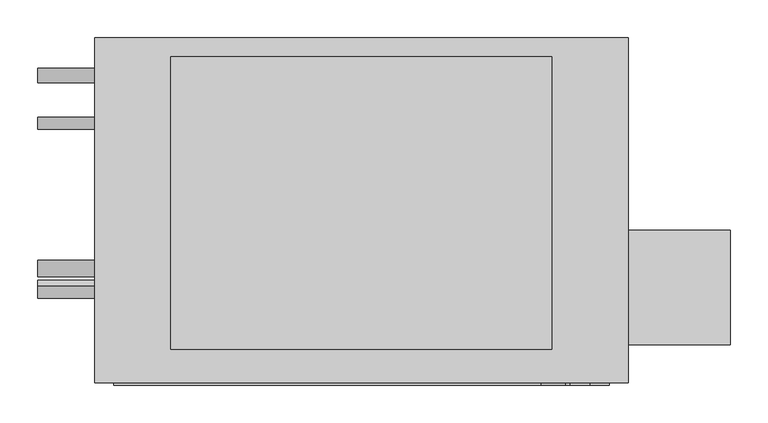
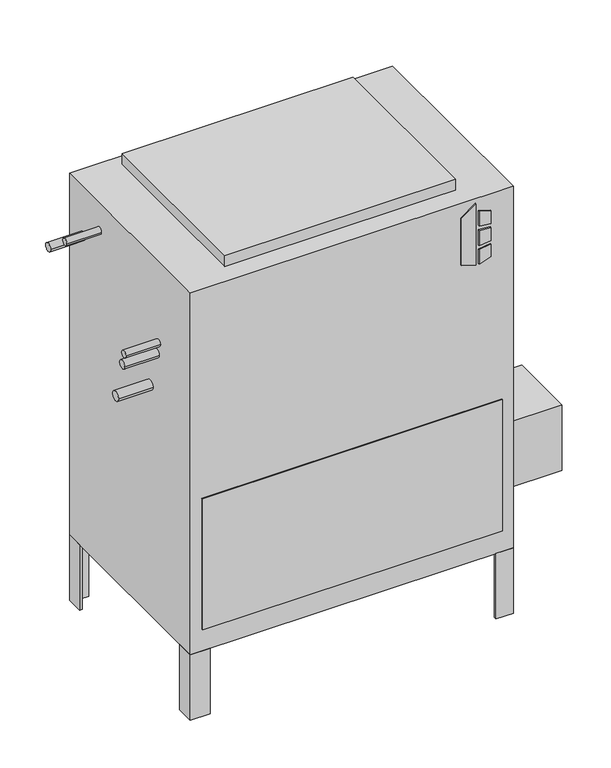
"""IFC4 building model written with IfcOpenShell, lengths in millimetres: proxy geometry, Concealed_High_Capacity_Vertical_Fan_Coil_Unit_-_VEY_-_IEC_-_4-Pipe_LH_2022 : Size 08 - 277v/60Hz/1Ph - 4/2 Coil."""

from ifc_helpers import new_model, si_unit, point, frame, frame_2d, origin, origin_with_axes, place, context, project, spatial, polyline, circle_curve, trimmed, segment, composite_curve, outline, extrude, source, transform, mapped, element, save


def mechanical_equipment_42458b22(model_context):
    return source(origin(), model_context, "Body", "SweptSolid", [
        extrude(outline(polyline([(698.9230703, 392.1868862), (688.975, 424.3602728), (831.1459244, 424.3602728), (808.1239183, 392.1868862), (698.9230703, 392.1868862)])), frame((0.0, -471.4875, 0.0), z_axis=(0.0, 1.0, 0.0), x_axis=(0.0, 0.0, 1.0)), (0.0, 0.0, 1.0), 3.175),
        extrude(outline(polyline([(777.9223557, 431.1186058), (774.7199632, 457.2), (803.9488042, 457.2), (812.0132193, 431.1186058), (777.9223557, 431.1186058)])), frame((0.0, -471.4875, 0.0), z_axis=(0.0, 1.0, 0.0), x_axis=(0.0, 0.0, 1.0)), (0.0, 0.0, 1.0), 3.175),
        extrude(outline(polyline([(726.0588288, 457.2), (722.3933279, 431.1186058), (688.975, 431.1186058), (697.6092372, 457.2), (726.0588288, 457.2)])), frame((0.0, -471.4875, 0.0), z_axis=(0.0, 1.0, 0.0), x_axis=(0.0, 0.0, 1.0)), (0.0, 0.0, 1.0), 3.175),
        extrude(outline(polyline([(765.3739903, 457.2), (767.6558166, 431.1186058), (731.7182681, 431.1186058), (734.4595331, 457.2), (765.3739903, 457.2)])), frame((0.0, -471.4875, 0.0), z_axis=(0.0, 1.0, 0.0), x_axis=(0.0, 0.0, 1.0)), (0.0, 0.0, 1.0), 3.175),
        extrude(outline(polyline([(644.525, -265.1125), (644.525, -417.5125), (508.0, -417.5125), (508.0, -265.1125), (644.525, -265.1125)])), frame((0.0, 0.0, 101.6), z_axis=(0.0, 0.0, 1.0), x_axis=(1.0, 0.0, 0.0)), (0.0, 0.0, 1.0), 152.4),
        extrude(outline(polyline([(508.0, -46.0375), (501.65, -46.0375), (501.65, -14.2875), (469.9, -14.2875), (469.9, -7.9375), (508.0, -7.9375), (508.0, -46.0375)])), frame((0.0, 0.0, -152.4), z_axis=(0.0, 0.0, 1.0), x_axis=(1.0, 0.0, 0.0)), (0.0, 0.0, 1.0), 152.4),
        extrude(outline(polyline([(-165.1, -7.9375), (-165.1, -14.2875), (-196.85, -14.2875), (-196.85, -46.0375), (-203.2, -46.0375), (-203.2, -7.9375), (-165.1, -7.9375)])), frame((0.0, 0.0, -152.4), z_axis=(0.0, 0.0, 1.0), x_axis=(1.0, 0.0, 0.0)), (0.0, 0.0, 1.0), 152.4),
        extrude(outline(polyline([(469.9, -468.3125), (469.9, -461.9625), (501.65, -461.9625), (501.65, -430.2125), (508.0, -430.2125), (508.0, -468.3125), (469.9, -468.3125)])), frame((0.0, 0.0, -152.4), z_axis=(0.0, 0.0, 1.0), x_axis=(1.0, 0.0, 0.0)), (0.0, 0.0, 1.0), 152.4),
        extrude(outline(polyline([(-203.2, -428.1199163), (-196.85, -428.1199163), (-196.85, -461.9625), (-159.7318533, -461.9625), (-159.7318533, -468.3125), (-203.2, -468.3125), (-203.2, -428.1199163)])), frame((0.0, 0.0, -152.4), z_axis=(0.0, 0.0, 1.0), x_axis=(1.0, 0.0, 0.0)), (0.0, 0.0, 1.0), 152.4),
        extrude(outline(polyline([(406.4, -33.3375), (406.4, -423.8625), (-101.6, -423.8625), (-101.6, -33.3375), (406.4, -33.3375)])), frame((0.0, 0.0, 841.375), z_axis=(0.0, 0.0, 1.0), x_axis=(1.0, 0.0, 0.0)), (0.0, 0.0, 1.0), 25.4),
        extrude(outline(polyline([(482.6, -471.4875), (-177.8, -471.4875), (-177.8, -468.3125), (482.6, -468.3125), (482.6, -471.4875)])), frame((0.0, 0.0, 50.8), z_axis=(0.0, 0.0, 1.0), x_axis=(1.0, 0.0, 0.0)), (0.0, 0.0, 1.0), 304.8),
        extrude(outline(composite_curve([segment(trimmed(circle_curve(frame_2d((-122.2375, 777.875)), 7.9375), [point((-130.175, 777.875))], [point((-114.3, 777.875))], False, "CARTESIAN"), True, "CONTINUOUS"), segment(trimmed(circle_curve(frame_2d((-122.2375, 777.875)), 7.9375), [point((-114.3, 777.875))], [point((-130.175, 777.875))], False, "CARTESIAN"), True, "CONTINUOUS")], self_intersect=False)), frame((-279.4, 0.0, 0.0), z_axis=(1.0, 0.0, 0.0), x_axis=(0.0, 1.0, 0.0)), (0.0, 0.0, 1.0), 76.2),
        extrude(outline(composite_curve([segment(trimmed(circle_curve(frame_2d((-347.3848135, 653.2230057)), 7.9375), [point((-355.3223135, 653.2230057))], [point((-339.4473135, 653.2230057))], False, "CARTESIAN"), True, "CONTINUOUS"), segment(trimmed(circle_curve(frame_2d((-347.3848135, 653.2230057)), 7.9375), [point((-339.4473135, 653.2230057))], [point((-355.3223135, 653.2230057))], False, "CARTESIAN"), True, "CONTINUOUS")], self_intersect=False)), frame((-279.4, 0.0, 0.0), z_axis=(1.0, 0.0, 0.0), x_axis=(0.0, 1.0, 0.0)), (0.0, 0.0, 1.0), 76.2),
        extrude(outline(composite_curve([segment(trimmed(circle_curve(frame_2d((-58.7375, 727.075)), 9.525), [point((-68.2625, 727.075))], [point((-49.2125, 727.075))], False, "CARTESIAN"), True, "CONTINUOUS"), segment(trimmed(circle_curve(frame_2d((-58.7375, 727.075)), 9.525), [point((-49.2125, 727.075))], [point((-68.2625, 727.075))], False, "CARTESIAN"), True, "CONTINUOUS")], self_intersect=False)), frame((-279.4, 0.0, 0.0), z_axis=(1.0, 0.0, 0.0), x_axis=(0.0, 1.0, 0.0)), (0.0, 0.0, 1.0), 76.2),
        extrude(outline(composite_curve([segment(trimmed(circle_curve(frame_2d((-341.3125, 625.475)), 9.525), [point((-350.8375, 625.475))], [point((-331.7875, 625.475))], False, "CARTESIAN"), True, "CONTINUOUS"), segment(trimmed(circle_curve(frame_2d((-341.3125, 625.475)), 9.525), [point((-331.7875, 625.475))], [point((-350.8375, 625.475))], False, "CARTESIAN"), True, "CONTINUOUS")], self_intersect=False)), frame((-279.4, 0.0, 0.0), z_axis=(1.0, 0.0, 0.0), x_axis=(0.0, 1.0, 0.0)), (0.0, 0.0, 1.0), 76.2),
        extrude(outline(composite_curve([segment(trimmed(circle_curve(frame_2d((-315.9125, 536.575)), 11.1125), [point((-327.025, 536.575))], [point((-304.8, 536.575))], False, "CARTESIAN"), True, "CONTINUOUS"), segment(trimmed(circle_curve(frame_2d((-315.9125, 536.575)), 11.1125), [point((-304.8, 536.575))], [point((-327.025, 536.575))], False, "CARTESIAN"), True, "CONTINUOUS")], self_intersect=False)), frame((-279.4, 0.0, 0.0), z_axis=(1.0, 0.0, 0.0), x_axis=(0.0, 1.0, 0.0)), (0.0, 0.0, 1.0), 76.2),
        extrude(outline(polyline([(508.0, -7.9375), (508.0, -468.3125), (-203.2, -468.3125), (-203.2, -7.9375), (508.0, -7.9375)])), origin_with_axes(), (0.0, 0.0, 1.0), 841.375),
    ])


if __name__ == "__main__":
    model = new_model("IFC4")
    model_context = context("Model", 3, world=origin())
    ifc_project = project(units=[si_unit("LENGTHUNIT", "METRE", prefix="MILLI")], contexts=[model_context])
    site = spatial("IfcSite", under=ifc_project)
    building = spatial("IfcBuilding", under=site)
    placement = place(None, origin())
    mechanical_equipment_shape = mechanical_equipment_42458b22(model_context)
    element("IfcBuildingElementProxy", 1, Name="Concealed_High_Capacity_Vertical_Fan_Coil_Unit_-_VEY_-_IEC_-_4-Pipe_LH_2022 : Size 08 - 277v/60Hz/1Ph - 4/2 Coil", ObjectType="Concealed_High_Capacity_Vertical_Fan_Coil_Unit_-_VEY_-_IEC_-_4-Pipe_LH_2022 : Size 08 - 277v/60Hz/1Ph - 4/2 Coil", at=placement, inside=building, context=model_context, shape_type="MappedRepresentation", body=[
        mapped(mechanical_equipment_shape, transform((0.0, 0.0, 0.0), x_axis=(1.0, 0.0, 0.0), y_axis=(0.0, 1.0, 0.0), z_axis=(0.0, 0.0, 1.0))),
    ])
    save(model, "model.ifc")
